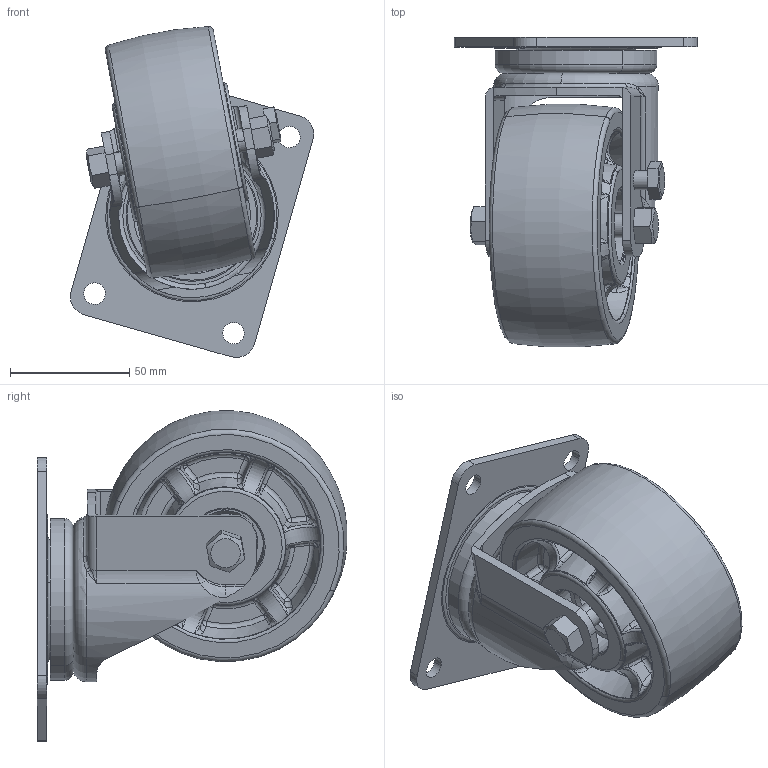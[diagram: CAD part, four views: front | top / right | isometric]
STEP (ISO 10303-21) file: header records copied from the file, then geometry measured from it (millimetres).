
FILE_DESCRIPTION (( 'STEP AP203' ), '1' );
FILE_NAME ('YKTP-8040-4.STEP', '2022-08-12T03:58:33', ( 'pc' ), ( 'Microsoft' ), 'SwSTEP 2.0', 'SolidWorks 2014', '' );
FILE_SCHEMA (( 'CONFIG_CONTROL_DESIGN' ));
Length unit declared in the file: millimetre
Products named in the file (10): 4; 6; 5; 8; 1; 88; 2; 9; YKTP-8040-4; 3
Assembly tree (10 placements, depth 2):
  YKTP-8040-4
    5
    1
    2
    3
    4
    6
    8  x2
    88
    9
Bounding box: 101.92 x 129.84 x 138.71 mm (x, y, z)
Volume: 390060.3 mm3; surface area: 101951.5 mm2
Topology: 10 solids, 10 shells, 612 faces, 1383 edges, 816 vertices
Faces by surface type: bspline 138, cylinder 124, plane 124, torus 100, sphere 64, cone 62
Entity records: 25651 total; most frequent: CARTESIAN_POINT 12011, ORIENTED_EDGE 2698, DIRECTION 2593, EDGE_CURVE 1349, AXIS2_PLACEMENT_3D 1182, VERTEX_POINT 796, CIRCLE 708, EDGE_LOOP 653
